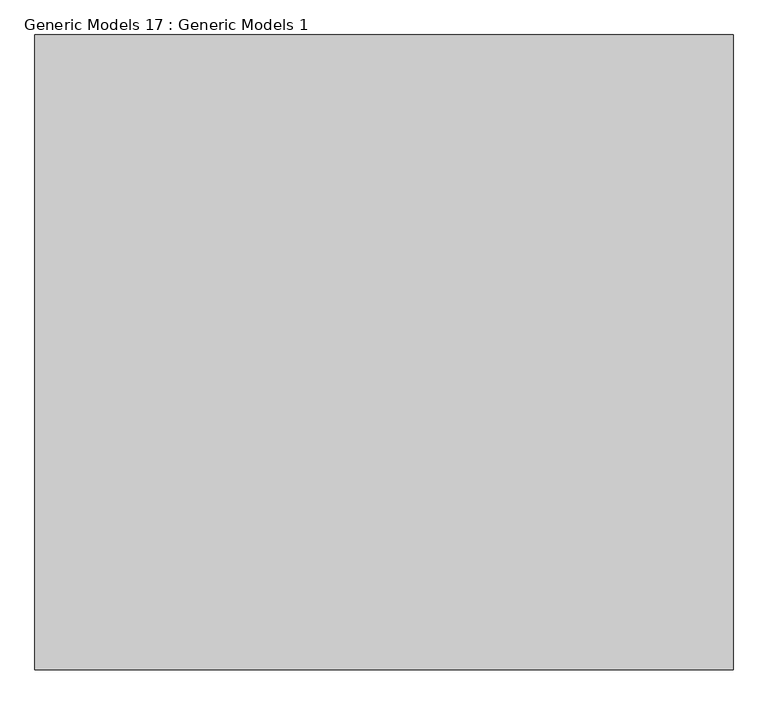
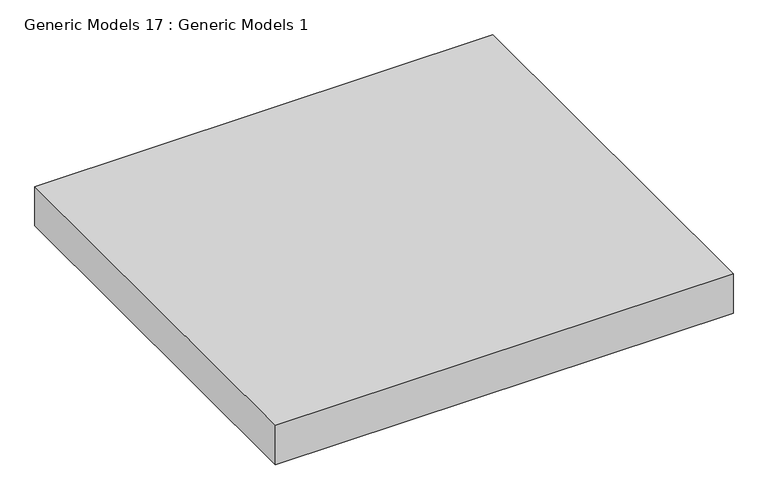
"""IFC4 building model written with IfcOpenShell, lengths in millimetres: proxy geometry, Generic Models 17 : Generic Models 1."""

from ifc_helpers import new_model, si_unit, origin, origin_with_axes, place, context, project, spatial, polyline, outline, extrude, source, transform, mapped, element, save


def generic_models_17_generic_models_1_282d7cbe(model_context):
    return source(origin(), model_context, "Body", "SweptSolid", [
        extrude(outline(polyline([(8037.1851171, -7486.5772826), (8037.1851171, -6486.5772826), (9137.1851171, -6486.5772826), (9137.1851171, -7486.5772826), (8037.1851171, -7486.5772826)])), origin_with_axes(), (0.0, 0.0, 1.0), 100.0),
    ])


if __name__ == "__main__":
    model = new_model("IFC4")
    model_context = context("Model", 3, world=origin())
    ifc_project = project(units=[si_unit("LENGTHUNIT", "METRE", prefix="MILLI")], contexts=[model_context])
    site = spatial("IfcSite", under=ifc_project)
    building = spatial("IfcBuilding", under=site)
    placement = place(None, origin())
    generic_models_17_generic_models_1_shape = generic_models_17_generic_models_1_282d7cbe(model_context)
    element("IfcBuildingElementProxy", 1, Name="Generic Models 17 : Generic Models 1", ObjectType="Generic Models 17 : Generic Models 1", at=placement, inside=building, context=model_context, shape_type="MappedRepresentation", body=[
        mapped(generic_models_17_generic_models_1_shape, transform((0.0, 0.0, 0.0), x_axis=(1.0, 0.0, 0.0), y_axis=(0.0, 1.0, 0.0), z_axis=(0.0, 0.0, 1.0))),
    ])
    save(model, "model.ifc")
